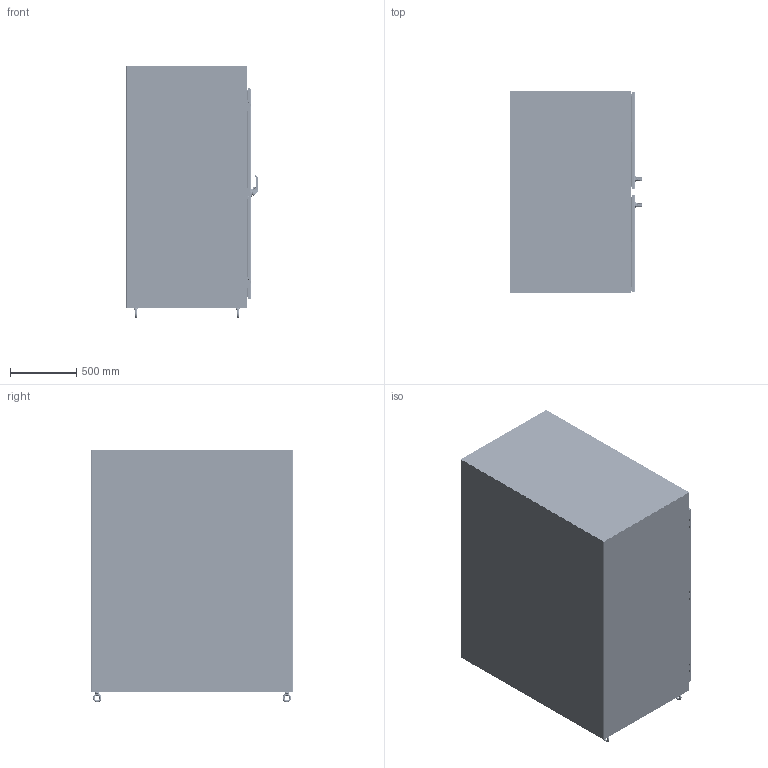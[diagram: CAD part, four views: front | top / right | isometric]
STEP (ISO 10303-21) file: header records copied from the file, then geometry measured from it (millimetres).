
FILE_DESCRIPTION((''),'2;1');
FILE_NAME('MODEL-233_ASM','2026-04-28T09:09:01',('johnh'),('SAGINAW CONTROL & ENGINEERING'),'CREO PARAMETRIC BY PTC INC, 2021284','CREO PARAMETRIC BY PTC INC, 2021284','');
FILE_SCHEMA(('AUTOMOTIVE_DESIGN { 1 0 10303 214 1 1 1 1 }'));
Length unit declared in the file: inch
Products named in the file (81): MODEL-233-L-SD; MODEL-233-TP; MODEL-233-BTM; MODEL-233-R-SD; MODEL-233-BCK; MODEL-233-RH-DR; 100837; 111267; 100882; 100955_SCREW_MTG; 100955_PADLOCK_CATCH; 100955_SCREW_LARGE; 100955_INSERT_SHAFT; 100955_INSERT_PKH; 100955_GASKET; 100955_O-RING; 100955_BASE; 100955_SPRING; 100955_HANDLE; 100955_CAM_SHAFT; 100955_HANDLE_ASM; 100955_CAM_ADAPTER; 100955_EARTH_NUT; 100955_FLANGE_NUT; 100955_CAM_NUT; 100955_KEY_INSERT; 100955_SPRING_CAM; 100955_TORSION_SPRING; 100955_SCREW_INSERT; 100955_ASM; 102236; 100030; 102236_ASM; MODEL-233-ROD-UPR-RH; 128146; 128145; 128144; 102482; MODEL-233-ROD-UPR-RH_ASM; 128143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
Assembly tree (191 placements, depth 5):
  MODEL-233_ASM
    MODEL-233-L-SD
    MODEL-233-TP
    MODEL-233-BTM
    MODEL-233-R-SD
    MODEL-233-BCK
    MODEL-233-RH-DOOR-ASSY_ASM
      MODEL-233-RH-DR
      100837  x5
      111267
      100882  x10
      100955_ASM
        100955_SCREW_MTG
        100955_PADLOCK_CATCH
        100955_SCREW_LARGE  x2
        100955_INSERT_SHAFT
        100955_INSERT_PKH
        100955_GASKET
        100955_O-RING
        100955_BASE
        100955_SPRING
        100955_HANDLE_ASM
          100955_HANDLE
          100955_CAM_SHAFT
        100955_CAM_ADAPTER
        100955_EARTH_NUT
        100955_FLANGE_NUT
        100955_CAM_NUT
        100955_KEY_INSERT
        100955_SPRING_CAM
        100955_TORSION_SPRING
        100955_SCREW_INSERT
      102236_ASM
        102236
        100030  x2
      MODEL-233-ROD-UPR-RH_ASM
        MODEL-233-ROD-UPR-RH
        128146
        128145
        128144
        102482  x2
      128143  x2
      112504  x2
      MODEL-233-ROD-LWR-RH_ASM
        MODEL-233-ROD-LWR-RH
        128146
        128145
        128144
        102482  x2
      MODEL-233-RH-PR-GS
      128258_ASM  x3
        128258
      126395  x3
      102483  x3
      101383_ASM  x3
        101383
        101383-STUD
      101221  x3
      125597
    MODEL-233-LH-DOOR-ASSY_ASM
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Bounding box: 992.65 x 1524 x 1903.6 mm (x, y, z)
Volume: 37652065.6 mm3; surface area: 28056359.3 mm2
Topology: 237 solids, 237 shells, 22791 faces, 58336 edges, 35932 vertices
Faces by surface type: plane 8008, cylinder 6011, bspline 5092, torus 1666, cone 1318, sphere 580, extrusion 116
Entity records: 416542 total; most frequent: CARTESIAN_POINT 167357, ORIENTED_EDGE 38312, DIRECTION 34708, PRESENTATION_STYLE_ASSIGNMENT 19475, STYLED_ITEM 19468, EDGE_CURVE 19156, CURVE_STYLE 19108, AXIS2_PLACEMENT_3D 12724
